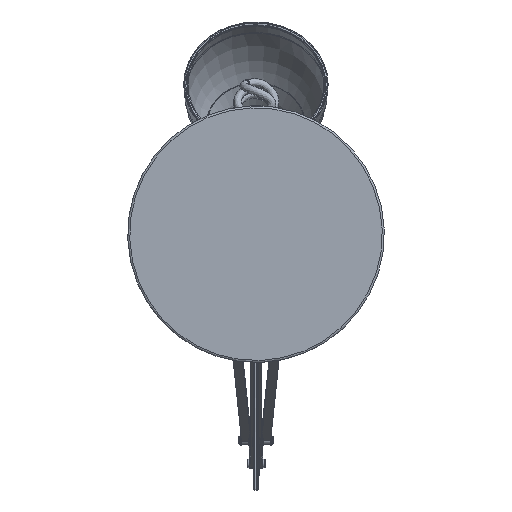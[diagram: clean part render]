
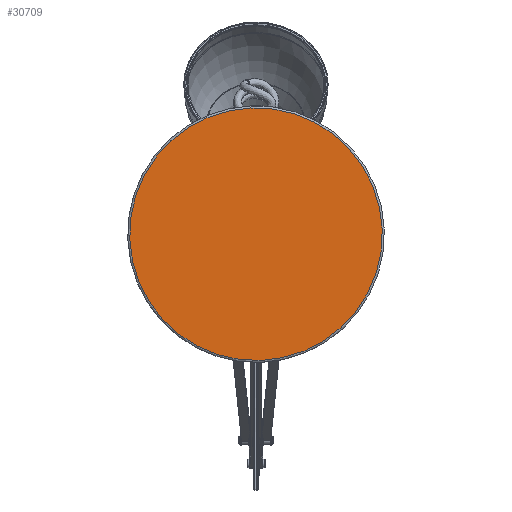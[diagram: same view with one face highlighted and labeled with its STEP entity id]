
A CAD part, front view. The second image highlights one B-rep face of the part: STEP entity #30709.
In plain terms, the highlighted planar face has unit normal (0, -1, 0).
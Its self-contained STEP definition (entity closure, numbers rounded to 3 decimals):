
#528 = EDGE_LOOP ( 'NONE', ( #35141 ) ) ;
#844 = CARTESIAN_POINT ( 'NONE',  ( -34.646, -752.141, 16.507 ) ) ;
#2945 = VERTEX_POINT ( 'NONE', #844 ) ;
#3513 = PLANE ( 'NONE',  #12161 ) ;
#7189 = DIRECTION ( 'NONE',  ( 0., 0., 1. ) ) ;
#12161 = AXIS2_PLACEMENT_3D ( 'NONE', #14408, #29154, #7189 ) ;
#14408 = CARTESIAN_POINT ( 'NONE',  ( -118.139, -752.141, 108.186 ) ) ;
#15022 = DIRECTION ( 'NONE',  ( 0., -1., 0. ) ) ;
#21840 = AXIS2_PLACEMENT_3D ( 'NONE', #36936, #15022, #40553 ) ;
#26252 = CIRCLE ( 'NONE', #21840, 124. ) ;
#27098 = EDGE_CURVE ( 'NONE', #2945, #2945, #26252, .T. ) ;
#29154 = DIRECTION ( 'NONE',  ( 0., 1., 0. ) ) ;
#30709 = ADVANCED_FACE ( 'NONE', ( #45881 ), #3513, .F. ) ;
#35141 = ORIENTED_EDGE ( 'NONE', *, *, #27098, .T. ) ;
#36936 = CARTESIAN_POINT ( 'NONE',  ( -118.139, -752.141, 108.186 ) ) ;
#40553 = DIRECTION ( 'NONE',  ( 0.673, 0., -0.739 ) ) ;
#45881 = FACE_OUTER_BOUND ( 'NONE', #528, .T. ) ;
